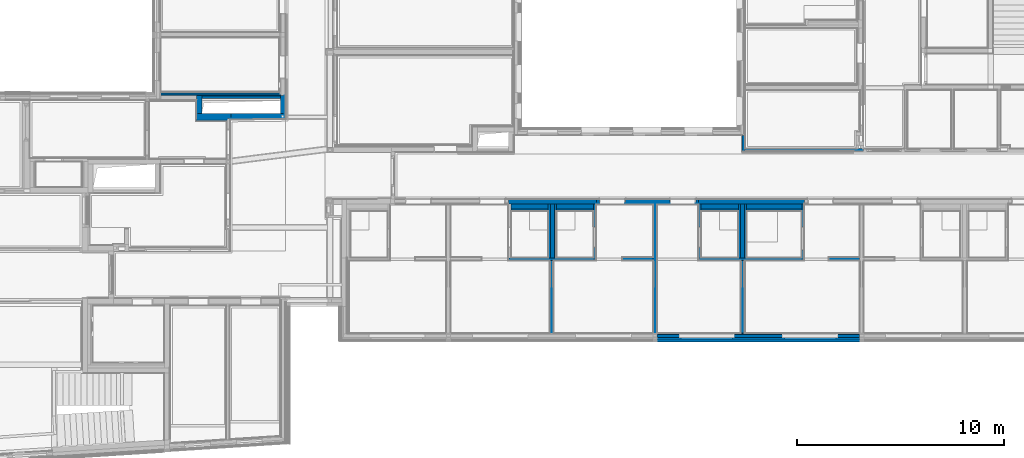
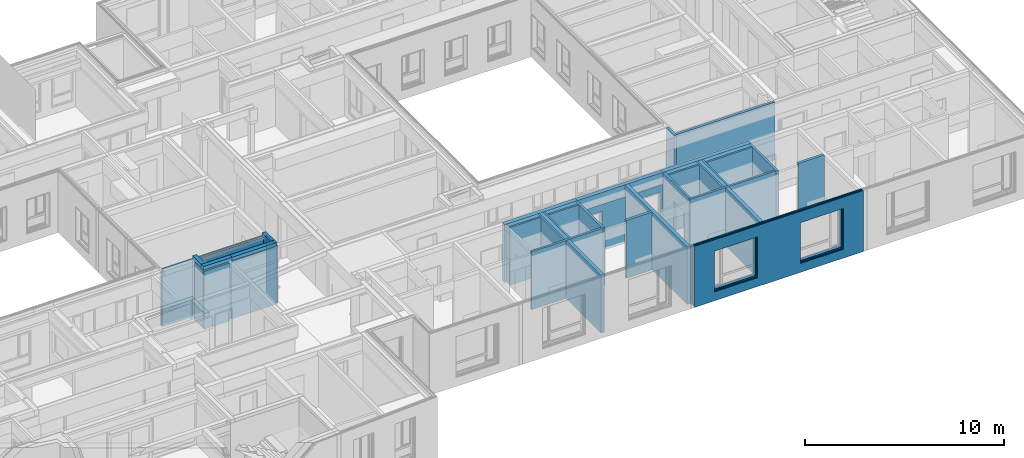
# One storey, part 43 of 222: 49 walls, 21 openings.
"""IFC4 building model written with IfcOpenShell, lengths in metres."""

import ifcopenshell
import ifcopenshell.guid

model = None  # the IFC model being written
_history = None  # IfcOwnerHistory: only IFC2X3 demands one
_inside = {}  # id of a spatial element -> (the spatial element, [elements in it])
_under = {}  # id of a project, library or spatial element -> (it, [spatial elements below it])
_declared = {}  # id of a project -> (the project, [libraries it declares])
_typed = {}  # id of a type object -> (the type object, [elements of that type])
_made_of = {}  # id of a material, layer set ... -> (it, [elements and type objects made of it])


def new_model(schema):
    """Start an empty IFC model of exactly this schema.

    Asked for "IFC4X3", IfcOpenShell would pick the latest addendum, in which some entities
    have other attributes; the version numbers below select the first issue.
    IFC2X3 requires an IfcOwnerHistory on every rooted entity: one is made here for all.
    """
    global model, _history
    if schema == "IFC4X3":
        model = ifcopenshell.file(schema_version=(4, 3, 0, 0))
    else:
        model = ifcopenshell.file(schema=schema)
    _inside.clear()
    _under.clear()
    _declared.clear()
    _typed.clear()
    _made_of.clear()
    _history = None
    if model.schema == "IFC2X3":
        org = make("IfcOrganization", Name="unknown")
        user = make(
            "IfcPersonAndOrganization",
            ThePerson=make("IfcPerson", FamilyName="unknown"),
            TheOrganization=org,
        )
        app = make(
            "IfcApplication",
            ApplicationDeveloper=org,
            Version="unknown",
            ApplicationFullName="unknown",
            ApplicationIdentifier="unknown",
        )
        _history = make(
            "IfcOwnerHistory",
            OwningUser=user,
            OwningApplication=app,
            ChangeAction="ADDED",
            CreationDate=0,
        )
    return model


def make(cls, **values):
    """One entity of the class cls with the attributes given. An attribute that is None is left unset."""
    return model.create_entity(
        cls, **{name: value for name, value in values.items() if value is not None}
    )


def entity(cls, *values):
    """Any entity or typed value of the class cls, its attributes in the order of the schema. None: left unset."""
    e = model.create_entity(cls)
    for i, value in enumerate(values):
        if value is not None:
            e[i] = value
    return e


def rooted(cls, **values):
    """An entity with a GlobalId (a new one), such as an element, a storey or a relation."""
    return make(cls, GlobalId=ifcopenshell.guid.new(), OwnerHistory=_history, **values)


def si_unit(unit_type, name, prefix=None):
    """IfcSIUnit, for example si_unit("LENGTHUNIT", "METRE", prefix="MILLI")."""
    return make("IfcSIUnit", UnitType=unit_type, Prefix=prefix, Name=name)


def converted_unit(unit_type, name, factor, base, dimensions=None, offset=None):
    """IfcConversionBasedUnit, such as the inch: factor (a typed value) times the base unit."""
    return make(
        "IfcConversionBasedUnit"
        if offset is None
        else "IfcConversionBasedUnitWithOffset",
        ConversionOffset=offset,
        Dimensions=None
        if dimensions is None
        else entity("IfcDimensionalExponents", *dimensions),
        UnitType=unit_type,
        Name=name,
        ConversionFactor=make(
            "IfcMeasureWithUnit", ValueComponent=factor, UnitComponent=base
        ),
    )


def derived_unit(unit_type, elements):
    """IfcDerivedUnit: a product of units, each with its exponent."""
    return make(
        "IfcDerivedUnit",
        Elements=[
            make("IfcDerivedUnitElement", Unit=unit, Exponent=power)
            for unit, power in elements
        ],
        UnitType=unit_type,
    )


def assignment(units):
    """IfcUnitAssignment: the units of a project."""
    return None if units is None else make("IfcUnitAssignment", Units=units)


def point(xyz):
    """IfcCartesianPoint."""
    return None if xyz is None else make("IfcCartesianPoint", Coordinates=xyz)


def direction(xyz):
    """IfcDirection."""
    return None if xyz is None else make("IfcDirection", DirectionRatios=xyz)


def frame(location, z_axis=None, x_axis=None):
    """IfcAxis2Placement3D, a coordinate frame: its origin and axes. An axis left out is left unset."""
    return make(
        "IfcAxis2Placement3D",
        Location=point(location),
        Axis=direction(z_axis),
        RefDirection=direction(x_axis),
    )


def frame_2d(location, x_axis=None):
    """IfcAxis2Placement2D, a coordinate frame in the plane: its origin and x axis."""
    return make(
        "IfcAxis2Placement2D", Location=point(location), RefDirection=direction(x_axis)
    )


def origin():
    """The frame at (0, 0, 0) with its axes left unset."""
    return frame((0.0, 0.0, 0.0))


def origin_with_axes():
    """The frame at (0, 0, 0) with the z axis (0, 0, 1) and the x axis (1, 0, 0) written out."""
    return frame((0.0, 0.0, 0.0), z_axis=(0.0, 0.0, 1.0), x_axis=(1.0, 0.0, 0.0))


def place(relative_to, where):
    """IfcLocalPlacement: puts the frame where relative to a parent placement (None: the world)."""
    return make(
        "IfcLocalPlacement", PlacementRelTo=relative_to, RelativePlacement=where
    )


def context(
    kind, dimensions, precision=None, world=None, true_north=None, identifier=None
):
    """IfcGeometricRepresentationContext, for example the 3D "Model" context."""
    return make(
        "IfcGeometricRepresentationContext",
        ContextIdentifier=identifier,
        ContextType=kind,
        CoordinateSpaceDimension=dimensions,
        Precision=precision,
        WorldCoordinateSystem=world,
        TrueNorth=true_north,
    )


def subcontext(parent, identifier, kind, view, scale=None):
    """IfcGeometricRepresentationSubContext, for example "Body" below "Model"."""
    return make(
        "IfcGeometricRepresentationSubContext",
        ContextIdentifier=identifier,
        ContextType=kind,
        ParentContext=parent,
        TargetScale=scale,
        TargetView=view,
    )


def project(units=None, contexts=None):
    """IfcProject with its units and contexts."""
    return rooted(
        "IfcProject",
        Name="project",
        RepresentationContexts=contexts,
        UnitsInContext=assignment(units),
    )


def spatial(cls, under=None, at=None, **own):
    """A site, building, storey or space (cls), placed at a placement, below another one or the project."""
    s = rooted(cls, ObjectPlacement=at, **own)
    if under is not None:
        _under.setdefault(under.id(), (under, []))[1].append(s)
    return s


def polyline(points):
    """IfcPolyline through the points."""
    return make("IfcPolyline", Points=[point(p) for p in points])


def profile(cls, at=None, kind="AREA", **sizes):
    """A parametric profile (cls). Its sizes go by their IFC names, for example OverallWidth=200.0."""
    return make(cls, ProfileType=kind, Position=at, **sizes)


def rectangle(**sizes):
    """IfcRectangleProfileDef."""
    return profile("IfcRectangleProfileDef", **sizes)


def outline(outer, holes=None, kind="AREA"):
    """IfcArbitraryClosedProfileDef: a profile drawn as a closed curve; with holes, ...WithVoids."""
    if holes is None:
        return make("IfcArbitraryClosedProfileDef", ProfileType=kind, OuterCurve=outer)
    return make(
        "IfcArbitraryProfileDefWithVoids",
        ProfileType=kind,
        OuterCurve=outer,
        InnerCurves=holes,
    )


def extrude(swept, where, along, depth):
    """IfcExtrudedAreaSolid: the profile swept, set in the frame where, extruded along a direction by depth."""
    return make(
        "IfcExtrudedAreaSolid",
        SweptArea=swept,
        Position=where,
        ExtrudedDirection=direction(along),
        Depth=depth,
    )


def clip(a, b, op="DIFFERENCE"):
    """IfcBooleanClippingResult: the solid a cut by the half space b."""
    return make(
        "IfcBooleanClippingResult", Operator=op, FirstOperand=a, SecondOperand=b
    )


def bounded_halfspace(plane, agree, where, boundary):
    """IfcPolygonalBoundedHalfSpace: a half space limited to a polygon's prism."""
    return make(
        "IfcPolygonalBoundedHalfSpace",
        BaseSurface=make("IfcPlane", Position=plane),
        AgreementFlag=agree,
        Position=where,
        PolygonalBoundary=boundary,
    )


def shape(context_of_items, identifier, shape_type, items):
    """IfcShapeRepresentation: the items that make up one representation, for example the "Body"."""
    return make(
        "IfcShapeRepresentation",
        ContextOfItems=context_of_items,
        RepresentationIdentifier=identifier,
        RepresentationType=shape_type,
        Items=items,
    )


def material(Name=None, Category=None):
    """IfcMaterial."""
    return make("IfcMaterial", Name=Name, Category=Category)


def made_of(thing, what):
    """Note that an element or type object is made of a material, layer set ...; save() writes the relation."""
    if what is not None:
        _made_of.setdefault(what.id(), (what, []))[1].append(thing)
    return thing


def element(
    cls,
    number,
    at=None,
    inside=None,
    cuts=None,
    type_object=None,
    material=None,
    context=None,
    identifier="Body",
    shape_type=None,
    held_by="IfcProductDefinitionShape",
    body=None,
    shapes=None,
    **own,
):
    """One element of the class cls, such as IfcWall. Its Tag is "e" and its number.

    at: its placement. inside: the storey or other place that contains it. cuts: it is an
    opening in that element (IfcRelVoidsElement). A single representation is given by context,
    identifier, shape_type and body (its items); several are given by shapes. held_by: the class
    of the entity that holds the representations. save() writes the other relations.
    """
    e = rooted(cls, Tag="e%d" % number, ObjectPlacement=at, **own)
    if body is not None:
        shapes = [shape(context, identifier, shape_type, body)]
    if shapes is not None:
        e.Representation = make(held_by, Representations=shapes)
    if inside is not None:
        _inside.setdefault(inside.id(), (inside, []))[1].append(e)
    if cuts is not None:
        rooted(
            "IfcRelVoidsElement", RelatingBuildingElement=cuts, RelatedOpeningElement=e
        )
    if type_object is not None:
        _typed.setdefault(type_object.id(), (type_object, []))[1].append(e)
    return made_of(e, material)


def aggregate(whole, parts):
    """IfcRelAggregates: a whole, such as a stair, and the parts it consists of."""
    return rooted("IfcRelAggregates", RelatingObject=whole, RelatedObjects=parts)


def save(model, path):
    """Write the relations noted so far, then the file.

    IfcRelAggregates (storeys below a building ...), IfcRelContainedInSpatialStructure (elements
    in a storey), IfcRelDefinesByType, IfcRelAssociatesMaterial and IfcRelDeclares: one each for
    every whole, place, type object, material and project.
    """
    for whole, parts in _under.values():
        aggregate(whole, parts)
    for where, things in _inside.values():
        rooted(
            "IfcRelContainedInSpatialStructure",
            RelatedElements=things,
            RelatingStructure=where,
        )
    for kind, things in _typed.values():
        rooted("IfcRelDefinesByType", RelatedObjects=things, RelatingType=kind)
    for what, things in _made_of.values():
        rooted("IfcRelAssociatesMaterial", RelatedObjects=things, RelatingMaterial=what)
    for by, libraries in _declared.values():
        rooted("IfcRelDeclares", RelatingContext=by, RelatedDefinitions=libraries)
    model.write(path)


model = new_model("IFC4")

# Units and contexts
model_context = context("Model", 3, precision=1e-05, world=origin())
body_context = subcontext(model_context, "Body", "Model", "MODEL_VIEW")
ifc_project = project(units=[si_unit("LENGTHUNIT", "METRE"), si_unit("AREAUNIT", "SQUARE_METRE"), si_unit("VOLUMEUNIT", "CUBIC_METRE"), si_unit("MASSUNIT", "GRAM", prefix="KILO"), converted_unit("PLANEANGLEUNIT", "DEGREE", entity("IfcPlaneAngleMeasure", 0.0174532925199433), si_unit("PLANEANGLEUNIT", "RADIAN"), dimensions=[0, 0, 0, 0, 0, 0, 0]), derived_unit("THERMALTRANSMITTANCEUNIT", [(si_unit("POWERUNIT", "WATT"), 1), (si_unit("THERMODYNAMICTEMPERATUREUNIT", "KELVIN"), -1), (si_unit("LENGTHUNIT", "METRE"), -2)]), derived_unit("VOLUMETRICFLOWRATEUNIT", [(si_unit("LENGTHUNIT", "METRE"), 3), (converted_unit("TIMEUNIT", "hour", entity("IfcTimeMeasure", 3600.0), si_unit("TIMEUNIT", "SECOND"), dimensions=[0, 0, 1, 0, 0, 0, 0]), -1), (si_unit("LENGTHUNIT", "METRE"), -1)])], contexts=[model_context])

# Site, building, storey
site_placement = place(None, origin())
site = spatial("IfcSite", under=ifc_project, at=site_placement, Name="Psychiatrie Neubau Wunstorf", CompositionType="ELEMENT")
building_placement = place(site_placement, origin())
building = spatial("IfcBuilding", under=site, at=building_placement, Name="Neubau H2 Stationsgebäude", CompositionType="ELEMENT")
storey_placement = place(building_placement, frame((0.0, 0.0, 3.6)))
storey = spatial("IfcBuildingStorey", under=building, at=storey_placement, Name="H2 Ebene +1", CompositionType="ELEMENT", Elevation=3.6)

# Wall, openings
ifc_material_1 = material(Name="WA-LB")
wall_1_placement = place(storey_placement, frame((95.9, -1.16399999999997, 0.0), z_axis=(0.0, 0.0, 1.0), x_axis=(-1.0, 7.42444654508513e-16, 0.0)))
wall_1 = element("IfcWall", 1, at=wall_1_placement, inside=storey, material=ifc_material_1, context=body_context, shape_type="SweptSolid", body=[
    extrude(rectangle(XDim=9.8, YDim=0.036, at=frame_2d((4.9, 0.018), x_axis=(1.0, 0.0))), origin_with_axes(), (0.0, 0.0, 1.0), 3.55),
])
opening_1_placement = place(wall_1_placement, frame((1.14999995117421, 0.0, 0.55), z_axis=(0.0, 1.0, 0.0), x_axis=(0.0, 0.0, 1.0)))
element("IfcOpeningElement", 2, at=opening_1_placement, cuts=wall_1, Name="Fensteröffnung", ObjectType="Opening", context=body_context, shape_type="SweptSolid", body=[
    extrude(outline(polyline([(2.5, 2.5), (2.5, 0.0), (0.0, 0.0), (0.0, 2.5), (2.5, 2.5)])), origin_with_axes(), (0.0, 0.0, 1.0), 0.036),
])
opening_2_placement = place(wall_1_placement, frame((6.14999995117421, 0.0, 0.55), z_axis=(0.0, 1.0, 0.0), x_axis=(0.0, 0.0, 1.0)))
element("IfcOpeningElement", 3, at=opening_2_placement, cuts=wall_1, Name="Fensteröffnung", ObjectType="Opening", context=body_context, shape_type="SweptSolid", body=[
    extrude(outline(polyline([(2.5, 2.5), (2.5, 0.0), (0.0, 0.0), (0.0, 2.5), (2.5, 2.5)])), origin_with_axes(), (0.0, 0.0, 1.0), 0.036),
])

ifc_material_2 = material(Name="WA-HD")
wall_2_placement = place(storey_placement, frame((95.9, -1.19999999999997, 0.0), z_axis=(0.0, 0.0, 1.0), x_axis=(-1.0, 7.42444654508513e-16, 0.0)))
wall_2 = element("IfcWall", 4, at=wall_2_placement, inside=storey, material=ifc_material_2, context=body_context, shape_type="Clipping", body=[
    clip(clip(extrude(rectangle(XDim=9.8, YDim=0.16, at=frame_2d((4.9, 0.08), x_axis=(1.0, 0.0))), origin_with_axes(), (0.0, 0.0, 1.0), 3.55), bounded_halfspace(frame((7.39999996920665, 0.0799999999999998, 0.26), z_axis=(0.0, 0.0, 1.0), x_axis=(1.0, -1.5467586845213e-17, 0.0)), True, origin_with_axes(), polyline([(6.04999995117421, 0.0), (8.74999998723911, 0.0), (8.74999998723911, 0.16), (6.04999995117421, 0.16), (6.04999995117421, 0.0)]))), bounded_halfspace(frame((2.39999996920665, 0.0800000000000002, 0.26), z_axis=(0.0, 0.0, 1.0), x_axis=(1.0, -1.54675868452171e-17, 0.0)), True, origin_with_axes(), polyline([(1.04999995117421, 0.0), (3.74999998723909, 0.0), (3.74999998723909, 0.16), (1.04999995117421, 0.16), (1.04999995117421, 0.0)]))),
])
opening_3_placement = place(wall_2_placement, frame((6.14999995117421, 0.0, 0.55), z_axis=(0.0, 1.0, 0.0), x_axis=(0.0, 0.0, 1.0)))
element("IfcOpeningElement", 5, at=opening_3_placement, cuts=wall_2, Name="Fensteröffnung", ObjectType="Opening", context=body_context, shape_type="SweptSolid", body=[
    extrude(outline(polyline([(2.5, 2.5), (2.5, 0.0), (0.0, 0.0), (0.0, 2.5), (2.5, 2.5)])), origin_with_axes(), (0.0, 0.0, 1.0), 0.16),
])
opening_4_placement = place(wall_2_placement, frame((1.14999995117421, 0.0, 0.55), z_axis=(-1.4210854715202e-15, 1.0, 0.0), x_axis=(0.0, 0.0, 1.0)))
element("IfcOpeningElement", 6, at=opening_4_placement, cuts=wall_2, Name="Fensteröffnung", ObjectType="Opening", context=body_context, shape_type="SweptSolid", body=[
    extrude(outline(polyline([(2.5, 2.5), (2.5, 0.0), (0.0, 0.0), (0.0, 2.5), (2.5, 2.5)])), origin_with_axes(), (0.0, 0.0, 1.0), 0.16),
])

ifc_material_3 = material(Name="WA-DL")
wall_3_placement = place(storey_placement, frame((95.9, -1.35999999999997, 0.0), z_axis=(0.0, 0.0, 1.0), x_axis=(-1.0, 7.42444654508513e-16, 0.0)))
wall_3 = element("IfcWall", 7, at=wall_3_placement, inside=storey, material=ifc_material_3, context=body_context, shape_type="SweptSolid", body=[
    extrude(rectangle(XDim=9.8, YDim=0.08, at=frame_2d((4.9, 0.04), x_axis=(1.0, 0.0))), origin_with_axes(), (0.0, 0.0, 1.0), 3.75),
])
opening_5_placement = place(wall_3_placement, frame((1.14999995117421, 0.0, 0.55), z_axis=(0.0, 1.0, 0.0), x_axis=(0.0, 0.0, 1.0)))
element("IfcOpeningElement", 8, at=opening_5_placement, cuts=wall_3, Name="Fensteröffnung", ObjectType="Opening", context=body_context, shape_type="SweptSolid", body=[
    extrude(outline(polyline([(2.5, 2.5), (2.5, 0.0), (0.0, 0.0), (0.0, 2.5), (2.5, 2.5)])), origin_with_axes(), (0.0, 0.0, 1.0), 0.08),
])
opening_6_placement = place(wall_3_placement, frame((6.14999995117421, 0.0, 0.55), z_axis=(0.0, 1.0, 0.0), x_axis=(0.0, 0.0, 1.0)))
element("IfcOpeningElement", 9, at=opening_6_placement, cuts=wall_3, Name="Fensteröffnung", ObjectType="Opening", context=body_context, shape_type="SweptSolid", body=[
    extrude(outline(polyline([(2.5, 2.5), (2.5, 0.0), (0.0, 0.0), (0.0, 2.5), (2.5, 2.5)])), origin_with_axes(), (0.0, 0.0, 1.0), 0.08),
])

ifc_material_4 = material(Name="WA-LB")
wall_4_placement = place(storey_placement, frame((95.9, -1.43999999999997, 0.0), z_axis=(0.0, 0.0, 1.0), x_axis=(-1.0, 7.42444654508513e-16, 0.0)))
wall_4 = element("IfcWall", 10, at=wall_4_placement, inside=storey, material=ifc_material_4, context=body_context, shape_type="SweptSolid", body=[
    extrude(rectangle(XDim=9.8, YDim=0.036, at=frame_2d((4.9, 0.018), x_axis=(1.0, 0.0))), origin_with_axes(), (0.0, 0.0, 1.0), 3.75),
])
opening_7_placement = place(wall_4_placement, frame((6.14999995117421, 0.0, 0.55), z_axis=(0.0, 1.0, 0.0), x_axis=(0.0, 0.0, 1.0)))
element("IfcOpeningElement", 11, at=opening_7_placement, cuts=wall_4, Name="Fensteröffnung", ObjectType="Opening", context=body_context, shape_type="SweptSolid", body=[
    extrude(outline(polyline([(2.5, 2.5), (2.5, 0.0), (0.0, 0.0), (0.0, 2.5), (2.5, 2.5)])), origin_with_axes(), (0.0, 0.0, 1.0), 0.036),
])
opening_8_placement = place(wall_4_placement, frame((1.14999995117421, 0.0, 0.55), z_axis=(0.0, 1.0, 0.0), x_axis=(0.0, 0.0, 1.0)))
element("IfcOpeningElement", 12, at=opening_8_placement, cuts=wall_4, Name="Fensteröffnung", ObjectType="Opening", context=body_context, shape_type="SweptSolid", body=[
    extrude(outline(polyline([(2.5, 2.5), (2.5, 0.0), (0.0, 0.0), (0.0, 2.5), (2.5, 2.5)])), origin_with_axes(), (0.0, 0.0, 1.0), 0.036),
])

ifc_material_5 = material(Name="WA-KL")
wall_5_placement = place(storey_placement, frame((95.9, -1.47599999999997, 0.0), z_axis=(0.0, 0.0, 1.0), x_axis=(-1.0, 7.42444654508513e-16, 0.0)))
wall_5 = element("IfcWall", 13, at=wall_5_placement, inside=storey, material=ifc_material_5, context=body_context, shape_type="SweptSolid", body=[
    extrude(rectangle(XDim=9.8, YDim=0.024, at=frame_2d((4.9, 0.012), x_axis=(1.0, 0.0))), origin_with_axes(), (0.0, 0.0, 1.0), 3.75),
])
opening_9_placement = place(wall_5_placement, frame((6.14999995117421, 0.0, 0.55), z_axis=(0.0, 1.0, 0.0), x_axis=(0.0, 0.0, 1.0)))
element("IfcOpeningElement", 14, at=opening_9_placement, cuts=wall_5, Name="Fensteröffnung", ObjectType="Opening", context=body_context, shape_type="SweptSolid", body=[
    extrude(outline(polyline([(2.5, 2.5), (2.5, 0.0), (0.0, 0.0), (0.0, 2.5), (2.5, 2.5)])), origin_with_axes(), (0.0, 0.0, 1.0), 0.024),
])
opening_10_placement = place(wall_5_placement, frame((1.14999995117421, 0.0, 0.55), z_axis=(0.0, 1.0, 0.0), x_axis=(0.0, 0.0, 1.0)))
element("IfcOpeningElement", 15, at=opening_10_placement, cuts=wall_5, Name="Fensteröffnung", ObjectType="Opening", context=body_context, shape_type="SweptSolid", body=[
    extrude(outline(polyline([(2.5, 2.5), (2.5, 0.0), (0.0, 0.0), (0.0, 2.5), (2.5, 2.5)])), origin_with_axes(), (0.0, 0.0, 1.0), 0.024),
])

ifc_material_6 = material(Name="WA-TL")
wall_6_placement = place(storey_placement, frame((95.9, -1.49999999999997, 0.0), z_axis=(0.0, 0.0, 1.0), x_axis=(-1.0, 7.42444654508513e-16, 0.0)))
wall_6 = element("IfcWall", 16, at=wall_6_placement, inside=storey, material=ifc_material_6, context=body_context, shape_type="SweptSolid", body=[
    extrude(rectangle(XDim=9.8, YDim=0.024, at=frame_2d((4.9, 0.012), x_axis=(1.0, 0.0))), origin_with_axes(), (0.0, 0.0, 1.0), 3.75),
])
opening_11_placement = place(wall_6_placement, frame((6.14999995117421, 0.0, 0.55), z_axis=(0.0, 1.0, 0.0), x_axis=(0.0, 0.0, 1.0)))
element("IfcOpeningElement", 17, at=opening_11_placement, cuts=wall_6, Name="Fensteröffnung", ObjectType="Opening", context=body_context, shape_type="SweptSolid", body=[
    extrude(outline(polyline([(2.5, 2.5), (2.5, 0.0), (0.0, 0.0), (0.0, 2.5), (2.5, 2.5)])), origin_with_axes(), (0.0, 0.0, 1.0), 0.024),
])
opening_12_placement = place(wall_6_placement, frame((1.14999995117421, 0.0, 0.55), z_axis=(0.0, 1.0, 0.0), x_axis=(0.0, 0.0, 1.0)))
element("IfcOpeningElement", 18, at=opening_12_placement, cuts=wall_6, Name="Fensteröffnung", ObjectType="Opening", context=body_context, shape_type="SweptSolid", body=[
    extrude(outline(polyline([(2.5, 2.5), (2.5, 0.0), (0.0, 0.0), (0.0, 2.5), (2.5, 2.5)])), origin_with_axes(), (0.0, 0.0, 1.0), 0.024),
])

ifc_material_7 = material(Name="WA-HS")
wall_7_placement = place(storey_placement, frame((95.9, -1.52399999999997, 0.0), z_axis=(0.0, 0.0, 1.0), x_axis=(-1.0, 7.42444654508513e-16, 0.0)))
wall_7 = element("IfcWall", 19, at=wall_7_placement, inside=storey, material=ifc_material_7, context=body_context, shape_type="SweptSolid", body=[
    extrude(rectangle(XDim=9.8, YDim=0.042, at=frame_2d((4.9, 0.021), x_axis=(1.0, 0.0))), origin_with_axes(), (0.0, 0.0, 1.0), 3.75),
])
opening_13_placement = place(wall_7_placement, frame((1.14999995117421, 0.0, 0.55), z_axis=(0.0, 1.0, 0.0), x_axis=(0.0, 0.0, 1.0)))
element("IfcOpeningElement", 20, at=opening_13_placement, cuts=wall_7, Name="Fensteröffnung", ObjectType="Opening", context=body_context, shape_type="SweptSolid", body=[
    extrude(outline(polyline([(2.5, 2.5), (2.5, 0.0), (0.0, 0.0), (0.0, 2.5), (2.5, 2.5)])), origin_with_axes(), (0.0, 0.0, 1.0), 0.042),
])
opening_14_placement = place(wall_7_placement, frame((6.14999995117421, 0.0, 0.55), z_axis=(0.0, 1.0, 0.0), x_axis=(0.0, 0.0, 1.0)))
element("IfcOpeningElement", 21, at=opening_14_placement, cuts=wall_7, Name="Fensteröffnung", ObjectType="Opening", context=body_context, shape_type="SweptSolid", body=[
    extrude(outline(polyline([(2.5, 2.5), (2.5, 0.0), (0.0, 0.0), (0.0, 2.5), (2.5, 2.5)])), origin_with_axes(), (0.0, 0.0, 1.0), 0.042),
])

# Wall
ifc_material_8 = material(Name="WI-LB")
wall_8_placement = place(storey_placement, frame((83.05, 2.48550000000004, 0.0), z_axis=(0.0, 0.0, 1.0), x_axis=(-1.0, 0.0, 0.0)))
element("IfcWall", 22, at=wall_8_placement, inside=storey, material=ifc_material_8, context=body_context, shape_type="SweptSolid", body=[
    extrude(rectangle(XDim=4.15, YDim=0.125, at=frame_2d((2.075, 0.0625), x_axis=(1.0, 0.0))), origin_with_axes(), (0.0, 0.0, 1.0), 3.55),
])

# Wall, opening
ifc_material_9 = material(Name="WI-LB")
wall_9_placement = place(storey_placement, frame((88.1000000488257, 5.1005, 0.0), z_axis=(0.0, 0.0, 1.0), x_axis=(0.0, -1.0, 0.0)))
wall_9 = element("IfcWall", 23, at=wall_9_placement, inside=storey, material=ifc_material_9, context=body_context, shape_type="SweptSolid", body=[
    extrude(rectangle(XDim=2.61499999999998, YDim=0.125, at=frame_2d((1.30749999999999, 0.0625), x_axis=(1.0, 0.0))), origin_with_axes(), (0.0, 0.0, 1.0), 3.55),
])
opening_15_placement = place(wall_9_placement, frame((2.11499999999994, 0.125, 0.0), z_axis=(0.0, -1.0, 0.0), x_axis=(0.0, 0.0, 1.0)))
element("IfcOpeningElement", 24, at=opening_15_placement, cuts=wall_9, Name="Türöffnung", ObjectType="Opening", context=body_context, shape_type="SweptSolid", body=[
    extrude(outline(polyline([(2.41, 1.01), (2.41, 0.0), (0.0, 0.0), (0.0, 1.01), (2.41, 1.01)])), origin_with_axes(), (0.0, 0.0, 1.0), 0.125),
])

ifc_material_10 = material(Name="WI-LB")
wall_10_placement = place(storey_placement, frame((93.1000000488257, 5.1005, 0.0), z_axis=(0.0, 0.0, 1.0), x_axis=(0.0, -1.0, 0.0)))
wall_10 = element("IfcWall", 25, at=wall_10_placement, inside=storey, material=ifc_material_10, context=body_context, shape_type="SweptSolid", body=[
    extrude(rectangle(XDim=2.73999999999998, YDim=0.125, at=frame_2d((1.36999999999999, 0.0625), x_axis=(1.0, 0.0))), origin_with_axes(), (0.0, 0.0, 1.0), 3.55),
])
opening_16_placement = place(wall_10_placement, frame((1.10499999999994, 0.0, 0.0), z_axis=(0.0, 1.0, 0.0), x_axis=(0.0, 0.0, 1.0)))
element("IfcOpeningElement", 26, at=opening_16_placement, cuts=wall_10, Name="Türöffnung", ObjectType="Opening", context=body_context, shape_type="SweptSolid", body=[
    extrude(outline(polyline([(2.41, 1.135), (2.41, 0.0), (0.0, 0.0), (0.0, 1.135), (2.41, 1.135)])), origin_with_axes(), (0.0, 0.0, 1.0), 0.125),
])

# Wall
ifc_material_11 = material(Name="WI-LB")
wall_11_placement = place(storey_placement, frame((93.1000000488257, 2.48550000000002, 0.0), z_axis=(0.0, 0.0, 1.0), x_axis=(-1.0, 0.0, 0.0)))
element("IfcWall", 27, at=wall_11_placement, inside=storey, material=ifc_material_11, context=body_context, shape_type="SweptSolid", body=[
    extrude(rectangle(XDim=4.99999999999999, YDim=0.125, at=frame_2d((2.49999999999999, 0.0625), x_axis=(1.0, 0.0))), origin_with_axes(), (0.0, 0.0, 1.0), 3.55),
])

# Wall, opening
ifc_material_12 = material(Name="WI-LB")
wall_12_placement = place(storey_placement, frame((83.0249999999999, 5.1005, 0.0), z_axis=(0.0, 0.0, 1.0), x_axis=(0.0, -1.0, 0.0)))
wall_12 = element("IfcWall", 28, at=wall_12_placement, inside=storey, material=ifc_material_12, context=body_context, shape_type="SweptSolid", body=[
    extrude(outline(polyline([(-2.73999999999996, 0.0), (-0.125, 0.0), (-0.125, 0.0250000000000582), (0.0, 0.0250000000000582), (0.0, 0.125), (-2.73999999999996, 0.125), (-2.73999999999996, 0.0)])), frame((2.73999999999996, 0.0, 0.0), z_axis=(0.0, 0.0, 1.0), x_axis=(1.0, 0.0, 0.0)), (0.0, 0.0, 1.0), 3.55),
])
opening_17_placement = place(wall_12_placement, frame((1.10499999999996, 0.0, 0.0), z_axis=(0.0, 1.0, 0.0), x_axis=(0.0, 0.0, 1.0)))
element("IfcOpeningElement", 29, at=opening_17_placement, cuts=wall_12, Name="Türöffnung", ObjectType="Opening", context=body_context, shape_type="SweptSolid", body=[
    extrude(outline(polyline([(2.41, 1.01), (2.41, 0.0), (0.0, 0.0), (0.0, 1.01), (2.41, 1.01)])), origin_with_axes(), (0.0, 0.0, 1.0), 0.125),
])

# Walls
ifc_material_13 = material(Name="WI-LB")
wall_13_placement = place(storey_placement, frame((63.810000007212, 9.20999969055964, 0.0), z_axis=(0.0, 0.0, 1.0), x_axis=(0.0, 1.0, 0.0)))
element("IfcWall", 30, at=wall_13_placement, inside=storey, material=ifc_material_13, context=body_context, shape_type="SweptSolid", body=[
    extrude(rectangle(XDim=0.864, YDim=0.0299996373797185, at=frame_2d((0.432, 0.0149998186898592), x_axis=(1.0, 0.0))), origin_with_axes(), (0.0, 0.0, 1.0), 3.55),
])
ifc_material_14 = material(Name="WI-LB")
wall_14_placement = place(storey_placement, frame((67.86, 10.3459996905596, 0.1), z_axis=(0.0, 0.0, 1.0), x_axis=(-1.0, 0.0, 0.0)))
element("IfcWall", 31, at=wall_14_placement, inside=storey, material=ifc_material_14, context=body_context, shape_type="SweptSolid", body=[
    extrude(rectangle(XDim=3.79999999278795, YDim=0.15, at=frame_2d((1.89999999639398, 0.075), x_axis=(1.0, 0.0))), origin_with_axes(), (0.0, 0.0, 1.0), 3.45),
])
ifc_material_15 = material(Name="WI-STB")
wall_15_placement = place(storey_placement, frame((68.08, 9.48499969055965, 0.0), z_axis=(0.0, 0.0, 1.0), x_axis=(-1.0, 0.0, 0.0)))
element("IfcWall", 32, at=wall_15_placement, inside=storey, material=ifc_material_15, context=body_context, shape_type="SweptSolid", body=[
    extrude(rectangle(XDim=2.60500000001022, YDim=0.25, at=frame_2d((1.30250000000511, 0.125), x_axis=(1.0, 0.0))), origin_with_axes(), (0.0, 0.0, 1.0), 3.75),
])
ifc_material_16 = material(Name="WI-LB")
wall_16_placement = place(storey_placement, frame((68.1175, 9.23499969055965, 0.0), z_axis=(0.0, 0.0, 1.0), x_axis=(-1.0, 0.0, 0.0)))
element("IfcWall", 33, at=wall_16_placement, inside=storey, material=ifc_material_16, context=body_context, shape_type="SweptSolid", body=[
    extrude(rectangle(XDim=2.69250366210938, YDim=0.0299996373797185, at=frame_2d((1.34625183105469, 0.0149998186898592), x_axis=(1.0, 0.0))), origin_with_axes(), (0.0, 0.0, 1.0), 3.55),
])
ifc_material_17 = material(Name="WI-STB")
wall_17_placement = place(storey_placement, frame((67.86, 10.3459996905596, 0.0), z_axis=(0.0, 0.0, 1.0), x_axis=(0.0, -1.0, 0.0)))
element("IfcWall", 34, at=wall_17_placement, inside=storey, material=ifc_material_17, context=body_context, shape_type="Clipping", body=[
    clip(extrude(rectangle(XDim=0.861, YDim=0.22, at=frame_2d((0.4305, 0.11), x_axis=(1.0, 0.0))), origin_with_axes(), (0.0, 0.0, 1.0), 3.75), bounded_halfspace(frame((0.124998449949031, 0.11, 0.1), z_axis=(0.0, 0.0, 1.0), x_axis=(1.0, 0.0, 0.0)), True, origin_with_axes(), polyline([(0.0, 0.0), (0.24999689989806, 0.0), (0.24999689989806, 0.22), (0.0, 0.22), (0.0, 0.0)]))),
])
ifc_material_18 = material(Name="WI-LB")
wall_18_placement = place(storey_placement, frame((68.08, 10.3459996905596, 0.0), z_axis=(0.0, 0.0, 1.0), x_axis=(0.0, -1.0, 0.0)))
element("IfcWall", 35, at=wall_18_placement, inside=storey, material=ifc_material_18, context=body_context, shape_type="Clipping", body=[
    clip(extrude(rectangle(XDim=1.111, YDim=0.0375, at=frame_2d((0.5555, 0.01875), x_axis=(1.0, 0.0))), origin_with_axes(), (0.0, 0.0, 1.0), 3.55), bounded_halfspace(frame((0.124998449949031, 0.0025000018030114, 0.1), z_axis=(0.0, 0.0, 1.0), x_axis=(1.0, 0.0, 0.0)), True, origin_with_axes(), polyline([(0.0, 0.0), (0.24999689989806, 0.0), (0.24999689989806, 0.0050000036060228), (0.0, 0.0050000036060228), (0.0, 0.0)]))),
])
ifc_material_19 = material(Name="WI-LB")
wall_19_placement = place(storey_placement, frame((85.9000000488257, 5.10050000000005, 0.0), z_axis=(0.0, 0.0, 1.0), x_axis=(0.0, -1.0, 0.0)))
element("IfcWall", 36, at=wall_19_placement, inside=storey, material=ifc_material_19, context=body_context, shape_type="SweptSolid", body=[
    extrude(rectangle(XDim=6.26450000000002, YDim=0.2, at=frame_2d((3.13225000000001, 0.1), x_axis=(1.0, 0.0))), origin_with_axes(), (0.0, 0.0, 1.0), 3.55),
])
ifc_material_20 = material(Name="WI-LB")
wall_20_placement = place(storey_placement, frame((80.9, 2.36050000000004, 0.0), z_axis=(0.0, 0.0, 1.0), x_axis=(0.0, -1.0, 0.0)))
element("IfcWall", 37, at=wall_20_placement, inside=storey, material=ifc_material_20, context=body_context, shape_type="SweptSolid", body=[
    extrude(rectangle(XDim=3.52450000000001, YDim=0.2, at=frame_2d((1.76225, 0.1), x_axis=(1.0, 0.0))), origin_with_axes(), (0.0, 0.0, 1.0), 3.55),
])
ifc_material_21 = material(Name="WI-LB")
wall_21_placement = place(storey_placement, frame((90.1500000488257, 2.36050000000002, 0.0), z_axis=(0.0, 0.0, 1.0), x_axis=(0.0, -1.0, 0.0)))
element("IfcWall", 38, at=wall_21_placement, inside=storey, material=ifc_material_21, context=body_context, shape_type="SweptSolid", body=[
    extrude(rectangle(XDim=3.52449999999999, YDim=0.2, at=frame_2d((1.76224999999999, 0.1), x_axis=(1.0, 0.0))), origin_with_axes(), (0.0, 0.0, 1.0), 3.55),
])
ifc_material_22 = material(Name="WI-LB")
wall_22_placement = place(storey_placement, frame((90.361, 7.62499989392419, 0.0), z_axis=(0.0, 0.0, 1.0), x_axis=(0.0, 1.0, 0.0)))
element("IfcWall", 39, at=wall_22_placement, inside=storey, material=ifc_material_22, context=body_context, shape_type="SweptSolid", body=[
    extrude(rectangle(XDim=0.78900010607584, YDim=0.15, at=frame_2d((0.39450005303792, 0.075), x_axis=(1.0, 0.0))), origin_with_axes(), (0.0, 0.0, 1.0), 3.55),
])
ifc_material_23 = material(Name="WI-LB")
wall_23_placement = place(storey_placement, frame((96.08250003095, 7.7749998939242, 0.0), z_axis=(0.0, 0.0, 1.0), x_axis=(-1.0, -1.2716870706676e-15, 0.0)))
element("IfcWall", 40, at=wall_23_placement, inside=storey, material=ifc_material_23, context=body_context, shape_type="SweptSolid", body=[
    extrude(rectangle(XDim=5.72150003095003, YDim=0.15, at=frame_2d((2.86075001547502, 0.075), x_axis=(1.0, 0.0))), origin_with_axes(), (0.0, 0.0, 1.0), 3.55),
])
ifc_material_24 = material(Name="WI-STB")
wall_24_placement = place(storey_placement, frame((64.0600000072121, 9.48499969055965, 0.0), z_axis=(0.0, 0.0, 1.0), x_axis=(0.0, 1.0, 0.0)))
element("IfcWall", 41, at=wall_24_placement, inside=storey, material=ifc_material_24, context=body_context, shape_type="Clipping", body=[
    clip(extrude(rectangle(XDim=0.860997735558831, YDim=0.250000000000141, at=frame_2d((0.430498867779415, 0.125000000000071), x_axis=(1.0, 0.0))), origin_with_axes(), (0.0, 0.0, 1.0), 3.75), bounded_halfspace(frame((0.736000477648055, 0.112500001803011, 0.1), z_axis=(0.0, 0.0, 1.0), x_axis=(1.0, 0.0, 0.0)), True, origin_with_axes(), polyline([(0.61100310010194, 0.0), (0.860997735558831, 0.0), (0.860997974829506, 0.225000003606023), (0.61100310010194, 0.225000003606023), (0.61100310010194, 0.0)]))),
])
ifc_material_25 = material(Name="WI-LB")
wall_25_placement = place(storey_placement, frame((85.9000000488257, 2.51050000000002, 0.0), z_axis=(0.0, 0.0, 1.0), x_axis=(-1.0, 1.21265960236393e-15, 0.0)))
element("IfcWall", 42, at=wall_25_placement, inside=storey, material=ifc_material_25, context=body_context, shape_type="SweptSolid", body=[
    extrude(rectangle(XDim=1.49999999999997, YDim=0.15, at=frame_2d((0.749999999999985, 0.075), x_axis=(1.0, 0.0))), origin_with_axes(), (0.0, 0.0, 1.0), 3.55),
])
ifc_material_26 = material(Name="WI-LB")
wall_26_placement = place(storey_placement, frame((95.9, 2.51050000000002, 0.0), z_axis=(0.0, 0.0, 1.0), x_axis=(-1.0, 0.0, 0.0)))
element("IfcWall", 43, at=wall_26_placement, inside=storey, material=ifc_material_26, context=body_context, shape_type="SweptSolid", body=[
    extrude(rectangle(XDim=1.5, YDim=0.15, at=frame_2d((0.75, 0.075), x_axis=(1.0, 0.0))), origin_with_axes(), (0.0, 0.0, 1.0), 3.55),
])

# Wall, openings
ifc_material_27 = material(Name="WI-HW 60")
wall_27_placement = place(storey_placement, frame((88.1000000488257, 5.33250000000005, 0.0), z_axis=(0.0, 0.0, 1.0), x_axis=(-1.0, 0.0, 0.0)))
wall_27 = element("IfcWall", 44, at=wall_27_placement, inside=storey, material=ifc_material_27, context=body_context, shape_type="SweptSolid", body=[
    extrude(rectangle(XDim=4.95000004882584, YDim=0.232, at=frame_2d((2.47500002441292, 0.116), x_axis=(1.0, 0.0))), origin_with_axes(), (0.0, 0.0, 1.0), 3.55),
])
opening_18_placement = place(wall_27_placement, frame((3.54000004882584, 0.0, 0.0), z_axis=(0.0, 1.0, 0.0), x_axis=(0.0, 0.0, 1.0)))
element("IfcOpeningElement", 45, at=opening_18_placement, cuts=wall_27, Name="Türöffnung", ObjectType="Opening", context=body_context, shape_type="SweptSolid", body=[
    extrude(outline(polyline([(2.41, 1.26), (2.41, 0.0), (0.0, 0.0), (0.0, 1.26), (2.41, 1.26)])), origin_with_axes(), (0.0, 0.0, 1.0), 0.232),
])
opening_19_placement = place(wall_27_placement, frame((0.125, 0.0, 0.0), z_axis=(0.0, 1.0, 0.0), x_axis=(0.0, 0.0, 1.0)))
element("IfcOpeningElement", 46, at=opening_19_placement, cuts=wall_27, Name="Türöffnung", ObjectType="Opening", context=body_context, shape_type="SweptSolid", body=[
    extrude(outline(polyline([(2.41, 1.26), (2.41, 0.0), (0.0, 0.0), (0.0, 1.26), (2.41, 1.26)])), origin_with_axes(), (0.0, 0.0, 1.0), 0.232),
])

ifc_material_28 = material(Name="WI-LB")
wall_28_placement = place(storey_placement, frame((88.1000000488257, 5.10050000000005, 0.0), z_axis=(0.0, 0.0, 1.0), x_axis=(-1.0, 0.0, 0.0)))
wall_28 = element("IfcWall", 47, at=wall_28_placement, inside=storey, material=ifc_material_28, context=body_context, shape_type="SweptSolid", body=[
    extrude(rectangle(XDim=4.95000004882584, YDim=0.04, at=frame_2d((2.47500002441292, 0.02), x_axis=(1.0, 0.0))), origin_with_axes(), (0.0, 0.0, 1.0), 2.85),
])
opening_20_placement = place(wall_28_placement, frame((3.54000004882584, 0.0, 0.0), z_axis=(0.0, 1.0, 0.0), x_axis=(0.0, 0.0, 1.0)))
element("IfcOpeningElement", 48, at=opening_20_placement, cuts=wall_28, Name="Türöffnung", ObjectType="Opening", context=body_context, shape_type="SweptSolid", body=[
    extrude(outline(polyline([(2.41, 1.26), (2.41, 0.0), (0.0, 0.0), (0.0, 1.26), (2.41, 1.26)])), origin_with_axes(), (0.0, 0.0, 1.0), 0.04),
])
opening_21_placement = place(wall_28_placement, frame((0.125, 0.0, 0.0), z_axis=(0.0, 1.0, 0.0), x_axis=(0.0, 0.0, 1.0)))
element("IfcOpeningElement", 49, at=opening_21_placement, cuts=wall_28, Name="Türöffnung", ObjectType="Opening", context=body_context, shape_type="SweptSolid", body=[
    extrude(outline(polyline([(2.41, 1.26), (2.41, 0.0), (0.0, 0.0), (0.0, 1.26), (2.41, 1.26)])), origin_with_axes(), (0.0, 0.0, 1.0), 0.04),
])

# Walls
ifc_material_29 = material(Name="WI-HW 60")
wall_29_placement = place(storey_placement, frame((83.15, 5.3325, 0.0), z_axis=(0.0, 0.0, 1.0), x_axis=(-1.0, 0.0, 0.0)))
element("IfcWall", 50, at=wall_29_placement, inside=storey, material=ifc_material_29, context=body_context, shape_type="SweptSolid", body=[
    extrude(rectangle(XDim=4.25000000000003, YDim=0.232, at=frame_2d((2.12500000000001, 0.116), x_axis=(1.0, 0.0))), origin_with_axes(), (0.0, 0.0, 1.0), 3.55),
])
ifc_material_30 = material(Name="WI-HW 60")
wall_30_placement = place(storey_placement, frame((93.2250000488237, 5.3325, 0.0), z_axis=(0.0, 0.0, 1.0), x_axis=(-1.0, 0.0, 0.0)))
element("IfcWall", 51, at=wall_30_placement, inside=storey, material=ifc_material_30, context=body_context, shape_type="SweptSolid", body=[
    extrude(rectangle(XDim=5.12499998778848, YDim=0.232, at=frame_2d((2.56249999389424, 0.116), x_axis=(1.0, 0.0))), origin_with_axes(), (0.0, 0.0, 1.0), 3.55),
])
ifc_material_31 = material(Name="WI-STB")
wall_31_placement = place(storey_placement, frame((65.4749999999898, 9.48499969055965, 0.0), z_axis=(0.0, 0.0, 1.0), x_axis=(-1.0, 0.0, 0.0)))
element("IfcWall", 52, at=wall_31_placement, inside=storey, material=ifc_material_31, context=body_context, shape_type="SweptSolid", body=[
    extrude(rectangle(XDim=1.66499999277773, YDim=0.25, at=frame_2d((0.832499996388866, 0.125), x_axis=(1.0, 0.0))), origin_with_axes(), (0.0, 0.0, 1.0), 3.75),
])
ifc_material_32 = material(Name="WI-IW")
wall_32_placement = place(storey_placement, frame((79.025, 4.7505, 0.0)))
element("IfcWall", 53, at=wall_32_placement, inside=storey, material=ifc_material_32, context=body_context, shape_type="SweptSolid", body=[
    extrude(rectangle(XDim=1.8, YDim=0.1, at=frame_2d((0.9, 0.05), x_axis=(1.0, 0.0))), origin_with_axes(), (0.0, 0.0, 1.0), 3.55),
])
ifc_material_33 = material(Name="Installationsraum")
wall_33_placement = place(storey_placement, frame((79.025, 4.8505, 0.0)))
element("IfcWall", 54, at=wall_33_placement, inside=storey, material=ifc_material_33, context=body_context, shape_type="SweptSolid", body=[
    extrude(rectangle(XDim=1.8, YDim=0.25, at=frame_2d((0.9, 0.125), x_axis=(1.0, 0.0))), origin_with_axes(), (0.0, 0.0, 1.0), 3.55),
])
ifc_material_34 = material(Name="WI-IW")
wall_34_placement = place(storey_placement, frame((80.825, 5.1005, 0.0), z_axis=(0.0, 0.0, 1.0), x_axis=(0.0, -1.0, 0.0)))
element("IfcWall", 55, at=wall_34_placement, inside=storey, material=ifc_material_34, context=body_context, shape_type="SweptSolid", body=[
    extrude(rectangle(XDim=2.615, YDim=0.1, at=frame_2d((1.3075, 0.05), x_axis=(1.0, 0.0))), origin_with_axes(), (0.0, 0.0, 1.0), 3.55),
])
ifc_material_35 = material(Name="Installationsraum")
wall_35_placement = place(storey_placement, frame((80.925, 5.1005, 0.0), z_axis=(0.0, 0.0, 1.0), x_axis=(0.0, -1.0, 0.0)))
element("IfcWall", 56, at=wall_35_placement, inside=storey, material=ifc_material_35, context=body_context, shape_type="SweptSolid", body=[
    extrude(rectangle(XDim=2.615, YDim=0.2, at=frame_2d((1.3075, 0.1), x_axis=(1.0, 0.0))), origin_with_axes(), (0.0, 0.0, 1.0), 3.55),
])
ifc_material_36 = material(Name="WI-IW")
wall_36_placement = place(storey_placement, frame((81.125, 5.1005, 0.0), z_axis=(0.0, 0.0, 1.0), x_axis=(0.0, -1.0, 0.0)))
element("IfcWall", 57, at=wall_36_placement, inside=storey, material=ifc_material_36, context=body_context, shape_type="SweptSolid", body=[
    extrude(rectangle(XDim=2.615, YDim=0.1, at=frame_2d((1.3075, 0.05), x_axis=(1.0, 0.0))), origin_with_axes(), (0.0, 0.0, 1.0), 3.55),
])
ifc_material_37 = material(Name="WI-IW")
wall_37_placement = place(storey_placement, frame((81.2249999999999, 4.75050000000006, 0.0)))
element("IfcWall", 58, at=wall_37_placement, inside=storey, material=ifc_material_37, context=body_context, shape_type="SweptSolid", body=[
    extrude(rectangle(XDim=1.8, YDim=0.1, at=frame_2d((0.9, 0.05), x_axis=(1.0, 0.0))), origin_with_axes(), (0.0, 0.0, 1.0), 3.55),
])
ifc_material_38 = material(Name="Installationsraum")
wall_38_placement = place(storey_placement, frame((81.2249999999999, 4.85050000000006, 0.0)))
element("IfcWall", 59, at=wall_38_placement, inside=storey, material=ifc_material_38, context=body_context, shape_type="SweptSolid", body=[
    extrude(rectangle(XDim=1.8, YDim=0.25, at=frame_2d((0.9, 0.125), x_axis=(1.0, 0.0))), origin_with_axes(), (0.0, 0.0, 1.0), 3.55),
])
ifc_material_39 = material(Name="WI-IW")
wall_39_placement = place(storey_placement, frame((88.2250000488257, 4.7505, 0.0)))
element("IfcWall", 60, at=wall_39_placement, inside=storey, material=ifc_material_39, context=body_context, shape_type="SweptSolid", body=[
    extrude(rectangle(XDim=1.8, YDim=0.1, at=frame_2d((0.9, 0.05), x_axis=(1.0, 0.0))), origin_with_axes(), (0.0, 0.0, 1.0), 3.55),
])
ifc_material_40 = material(Name="Installationsraum")
wall_40_placement = place(storey_placement, frame((88.2250000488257, 4.8505, 0.0)))
element("IfcWall", 61, at=wall_40_placement, inside=storey, material=ifc_material_40, context=body_context, shape_type="SweptSolid", body=[
    extrude(rectangle(XDim=1.8, YDim=0.25, at=frame_2d((0.9, 0.125), x_axis=(1.0, 0.0))), origin_with_axes(), (0.0, 0.0, 1.0), 3.55),
])
ifc_material_41 = material(Name="WI-IW")
wall_41_placement = place(storey_placement, frame((90.0250000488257, 5.1005, 0.0), z_axis=(0.0, 0.0, 1.0), x_axis=(0.0, -1.0, 0.0)))
element("IfcWall", 62, at=wall_41_placement, inside=storey, material=ifc_material_41, context=body_context, shape_type="SweptSolid", body=[
    extrude(rectangle(XDim=2.615, YDim=0.1, at=frame_2d((1.3075, 0.05), x_axis=(1.0, 0.0))), origin_with_axes(), (0.0, 0.0, 1.0), 3.55),
])
ifc_material_42 = material(Name="Installationsraum")
wall_42_placement = place(storey_placement, frame((90.1250000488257, 5.1005, 0.0), z_axis=(0.0, 0.0, 1.0), x_axis=(0.0, -1.0, 0.0)))
element("IfcWall", 63, at=wall_42_placement, inside=storey, material=ifc_material_42, context=body_context, shape_type="SweptSolid", body=[
    extrude(rectangle(XDim=2.615, YDim=0.2, at=frame_2d((1.3075, 0.1), x_axis=(1.0, 0.0))), origin_with_axes(), (0.0, 0.0, 1.0), 3.55),
])
ifc_material_43 = material(Name="WI-IW")
wall_43_placement = place(storey_placement, frame((90.3250000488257, 5.1005, 0.0), z_axis=(0.0, 0.0, 1.0), x_axis=(0.0, -1.0, 0.0)))
element("IfcWall", 64, at=wall_43_placement, inside=storey, material=ifc_material_43, context=body_context, shape_type="SweptSolid", body=[
    extrude(rectangle(XDim=2.615, YDim=0.1, at=frame_2d((1.3075, 0.05), x_axis=(1.0, 0.0))), origin_with_axes(), (0.0, 0.0, 1.0), 3.55),
])
ifc_material_44 = material(Name="WI-IW")
wall_44_placement = place(storey_placement, frame((90.4250000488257, 4.7505, 0.0)))
element("IfcWall", 65, at=wall_44_placement, inside=storey, material=ifc_material_44, context=body_context, shape_type="SweptSolid", body=[
    extrude(rectangle(XDim=2.67500000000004, YDim=0.1, at=frame_2d((1.33750000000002, 0.05), x_axis=(1.0, 0.0))), origin_with_axes(), (0.0, 0.0, 1.0), 3.55),
])
ifc_material_45 = material(Name="Installationsraum")
wall_45_placement = place(storey_placement, frame((90.4250000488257, 4.8505, 0.0)))
element("IfcWall", 66, at=wall_45_placement, inside=storey, material=ifc_material_45, context=body_context, shape_type="SweptSolid", body=[
    extrude(rectangle(XDim=2.67500000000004, YDim=0.25, at=frame_2d((1.33750000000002, 0.125), x_axis=(1.0, 0.0))), origin_with_axes(), (0.0, 0.0, 1.0), 3.55),
])
ifc_material_46 = material(Name="WI-IW")
wall_46_placement = place(storey_placement, frame((67.8355, 10.5209934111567, 0.0), z_axis=(0.0, 0.0, 1.0), x_axis=(-0.999999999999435, 1.06342520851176e-06, 0.0)))
element("IfcWall", 67, at=wall_46_placement, inside=storey, material=ifc_material_46, context=body_context, shape_type="SweptSolid", body=[
    extrude(rectangle(XDim=5.77449980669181, YDim=0.1, at=frame_2d((2.88724990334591, 0.0500000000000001), x_axis=(1.0, 0.0))), origin_with_axes(), (0.0, 0.0, 1.0), 3.45),
])
ifc_material_47 = material(Name="Installationsraum")
wall_47_placement = place(storey_placement, frame((67.8855, 10.4209933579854, 0.0), z_axis=(0.0, 0.0, 1.0), x_axis=(-0.999999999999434, 1.06342520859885e-06, 0.0)))
element("IfcWall", 68, at=wall_47_placement, inside=storey, material=ifc_material_47, context=body_context, shape_type="SweptSolid", body=[
    extrude(outline(polyline([(-5.82449991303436, -0.0749998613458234), (0.0, -0.0749998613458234), (0.0, 0.0), (-5.82449999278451, -6.19392011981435e-06), (-5.82449991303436, -0.0749998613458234)])), frame((5.82449991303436, 0.0749998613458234, 0.0), z_axis=(0.0, 0.0, 1.0), x_axis=(1.0, 0.0, 0.0)), (0.0, 0.0, 1.0), 3.55),
])
ifc_material_48 = material(Name="WI-IW")
wall_48_placement = place(storey_placement, frame((63.7800003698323, 9.10999969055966, 0.0), z_axis=(0.0, 0.0, 1.0), x_axis=(1.0, -6.03492426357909e-13, 0.0)))
element("IfcWall", 69, at=wall_48_placement, inside=storey, material=ifc_material_48, context=body_context, shape_type="SweptSolid", body=[
    extrude(rectangle(XDim=1.49499596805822, YDim=0.1, at=frame_2d((0.747497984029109, 0.05), x_axis=(1.0, 0.0))), origin_with_axes(), (0.0, 0.0, 1.0), 3.55),
])
ifc_material_49 = material(Name="Installationsraum")
wall_49_placement = place(storey_placement, frame((63.810000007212, 9.20999969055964, 0.0), z_axis=(0.0, 0.0, 1.0), x_axis=(1.0, -6.03434173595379e-13, 0.0)))
element("IfcWall", 70, at=wall_49_placement, inside=storey, material=ifc_material_49, context=body_context, shape_type="SweptSolid", body=[
    extrude(rectangle(XDim=1.46499633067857, YDim=0.025, at=frame_2d((0.732498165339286, 0.0125), x_axis=(1.0, 0.0))), origin_with_axes(), (0.0, 0.0, 1.0), 3.55),
])

save(model, "model.ifc")
